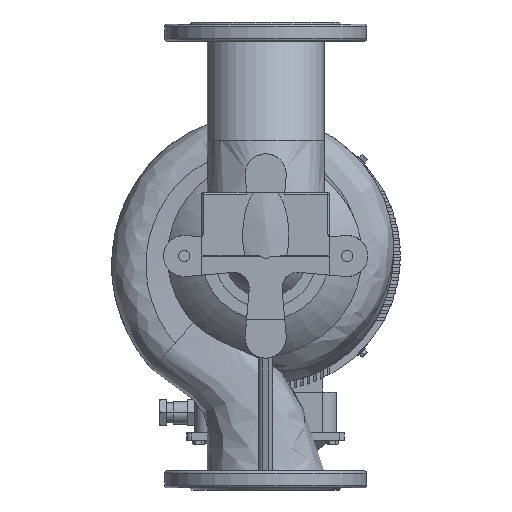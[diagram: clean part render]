
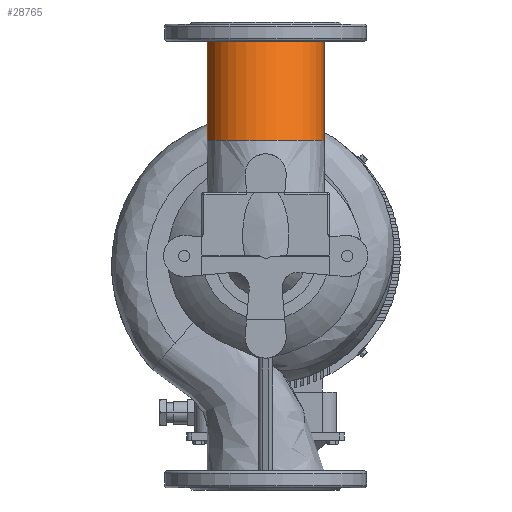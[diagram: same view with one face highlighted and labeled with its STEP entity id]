
A CAD part, front view. The second image highlights one B-rep face of the part: STEP entity #28765.
In plain terms, the highlighted free-form (B-spline) face has degree [3, 1] with [4, 2] control points.
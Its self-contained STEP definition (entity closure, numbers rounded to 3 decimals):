
#638 = CARTESIAN_POINT ( 'NONE',  ( 82.5, -230.302, 162.96 ) ) ;
#3949 = CARTESIAN_POINT ( 'NONE',  ( -82.5, 0., 303. ) ) ;
#4490 = CIRCLE ( 'NONE', #52059, 82.5 ) ;
#5710 = B_SPLINE_CURVE_WITH_KNOTS ( 'NONE', 1,
 ( #15038, #3949 ),
 .UNSPECIFIED., .F., .F.,
 ( 2, 2 ),
 ( 0., 1. ),
 .UNSPECIFIED. ) ;
#11811 = AXIS2_PLACEMENT_3D ( 'NONE', #64443, #53016, #52280 ) ;
#15038 = CARTESIAN_POINT ( 'NONE',  ( -82.5, -65.302, 162.96 ) ) ;
#15944 = CARTESIAN_POINT ( 'NONE',  ( 82.5, -65.302, 162.96 ) ) ;
#18192 = EDGE_CURVE ( 'NONE', #37254, #50699, #52213, .T. ) ;
#20372 = CIRCLE ( 'NONE', #11811, 82.5 ) ;
#23915 = CARTESIAN_POINT ( 'NONE',  ( 82.5, 0., 303. ) ) ;
#25712 = ORIENTED_EDGE ( 'NONE', *, *, #42911, .T. ) ;
#27033 = CARTESIAN_POINT ( 'NONE',  ( -82.5, 0., 303. ) ) ;
#27215 = ORIENTED_EDGE ( 'NONE', *, *, #54098, .F. ) ;
#28188 = CARTESIAN_POINT ( 'NONE',  ( 82.5, -65.302, 162.96 ) ) ;
#28565 = CARTESIAN_POINT ( 'NONE',  ( 82.5, -165., 303. ) ) ;
#28765 = ADVANCED_FACE ( 'NONE', ( #64425 ), #52400, .F. ) ;
#28938 = CARTESIAN_POINT ( 'NONE',  ( -82.5, -65.302, 162.96 ) ) ;
#30136 = CARTESIAN_POINT ( 'NONE',  ( 82.5, 0., 303. ) ) ;
#33134 = CARTESIAN_POINT ( 'NONE',  ( 82.5, 0., 303. ) ) ;
#33768 = VERTEX_POINT ( 'NONE', #73806 ) ;
#35140 = DIRECTION ( 'NONE',  ( -1., 0., 0. ) ) ;
#36798 = EDGE_LOOP ( 'NONE', ( #27215, #40375, #25712, #40948 ) ) ;
#37254 = VERTEX_POINT ( 'NONE', #59165 ) ;
#40375 = ORIENTED_EDGE ( 'NONE', *, *, #18192, .T. ) ;
#40528 = CARTESIAN_POINT ( 'NONE',  ( 0., -65.302, 162.96 ) ) ;
#40783 = CARTESIAN_POINT ( 'NONE',  ( -82.5, -230.302, 162.96 ) ) ;
#40948 = ORIENTED_EDGE ( 'NONE', *, *, #73976, .F. ) ;
#42911 = EDGE_CURVE ( 'NONE', #50699, #50265, #20372, .T. ) ;
#46276 = DIRECTION ( 'NONE',  ( 0., 0., -1. ) ) ;
#50265 = VERTEX_POINT ( 'NONE', #27033 ) ;
#50699 = VERTEX_POINT ( 'NONE', #30136 ) ;
#51502 = CARTESIAN_POINT ( 'NONE',  ( -82.5, -165., 303. ) ) ;
#52059 = AXIS2_PLACEMENT_3D ( 'NONE', #40528, #46276, #35140 ) ;
#52213 = B_SPLINE_CURVE_WITH_KNOTS ( 'NONE', 1,
 ( #15944, #33134 ),
 .UNSPECIFIED., .F., .F.,
 ( 2, 2 ),
 ( 0., 1. ),
 .UNSPECIFIED. ) ;
#52262 = CARTESIAN_POINT ( 'NONE',  ( -82.5, 0., 303. ) ) ;
#52280 = DIRECTION ( 'NONE',  ( -1., 0., 0. ) ) ;
#52400 =( BOUNDED_SURFACE ( )  B_SPLINE_SURFACE ( 3, 1, ( 
 ( #28188, #23915 ),
 ( #638, #28565 ),
 ( #40783, #51502 ),
 ( #28938, #52262 ) ),
 .UNSPECIFIED., .F., .F., .T. ) 
 B_SPLINE_SURFACE_WITH_KNOTS ( ( 4, 4 ),
 ( 2, 2 ),
 ( 0.5, 1. ),
 ( 0., 1. ),
 .UNSPECIFIED. ) 
 GEOMETRIC_REPRESENTATION_ITEM ( )  RATIONAL_B_SPLINE_SURFACE ( (
 ( 1., 1.),
 ( 0.333, 0.333),
 ( 0.333, 0.333),
 ( 1., 1.) ) ) 
 REPRESENTATION_ITEM ( '' )  SURFACE ( )  );
#53016 = DIRECTION ( 'NONE',  ( 0., 0., -1. ) ) ;
#54098 = EDGE_CURVE ( 'NONE', #37254, #33768, #4490, .T. ) ;
#59165 = CARTESIAN_POINT ( 'NONE',  ( 82.5, -65.302, 162.96 ) ) ;
#64425 = FACE_OUTER_BOUND ( 'NONE', #36798, .T. ) ;
#64443 = CARTESIAN_POINT ( 'NONE',  ( 0., 0., 303. ) ) ;
#73806 = CARTESIAN_POINT ( 'NONE',  ( -82.5, -65.302, 162.96 ) ) ;
#73976 = EDGE_CURVE ( 'NONE', #33768, #50265, #5710, .T. ) ;
